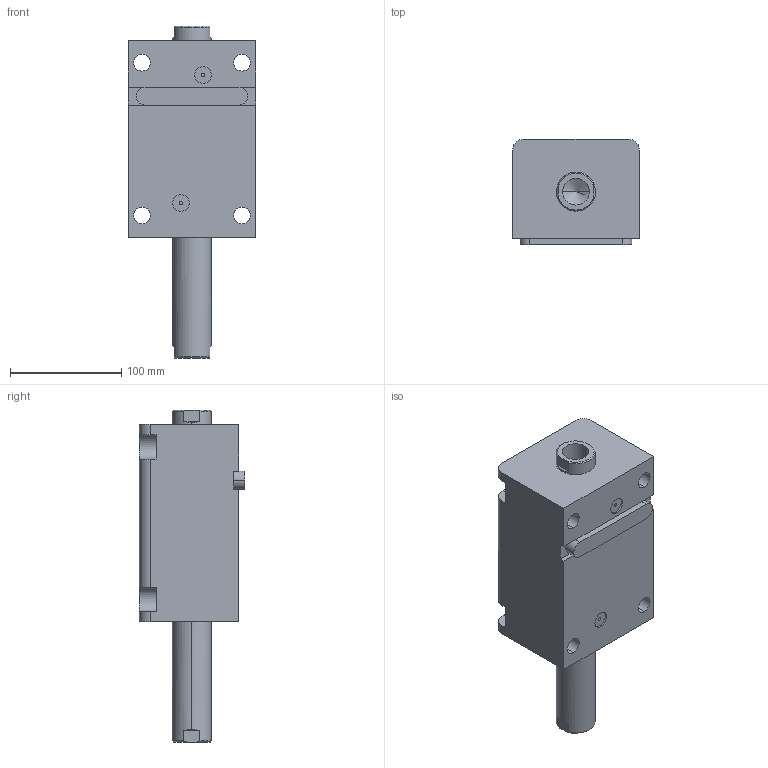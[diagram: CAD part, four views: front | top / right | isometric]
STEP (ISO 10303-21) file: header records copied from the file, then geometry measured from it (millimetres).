
FILE_DESCRIPTION (( 'STEP AP203' ), '1' );
FILE_NAME ('HTB-LWM63-95N.STEP', '2020-12-25T03:56:03', ( '微软用户' ), ( '微软中国' ), 'SwSTEP 2.0', 'SolidWorks 2012', '' );
FILE_SCHEMA (( 'CONFIG_CONTROL_DESIGN' ));
Length unit declared in the file: millimetre
Products named in the file (4): HTB-LWM63-95掛极; HTB-LWM63-95N活塞杆; HTB-LWM63-瑩; HTB-LWM63-95N
Assembly tree (3 placements, depth 2):
  HTB-LWM63-95N
    HTB-LWM63-95掛极
    HTB-LWM63-95N活塞杆
    HTB-LWM63-瑩
Bounding box: 114 x 94.5 x 298 mm (x, y, z)
Volume: 1592363.1 mm3; surface area: 190022.5 mm2
Topology: 3 solids, 3 shells, 105 faces, 261 edges, 168 vertices
Faces by surface type: cylinder 45, plane 44, torus 8, cone 8
Entity records: 3571 total; most frequent: CARTESIAN_POINT 592, DIRECTION 573, ORIENTED_EDGE 514, EDGE_CURVE 257, AXIS2_PLACEMENT_3D 221, VERTEX_POINT 168, LINE 131, VECTOR 131
